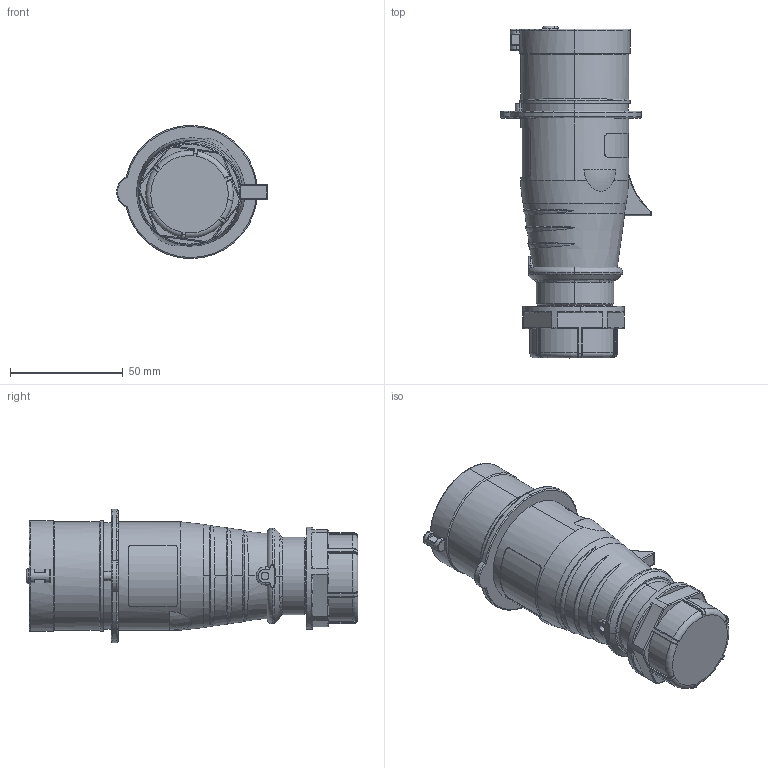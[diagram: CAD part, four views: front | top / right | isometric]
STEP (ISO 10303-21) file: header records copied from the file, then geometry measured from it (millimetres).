
FILE_DESCRIPTION (( 'STEP AP203' ), '1' );
FILE_NAME ('DIS2131636 (CP 4p 16ﾀ 400ﾂ IP44).STEP', '2024-08-06T12:42:04', ( '' ), ( '' ), 'SwSTEP 2.0', 'SolidWorks 2022', '' );
FILE_SCHEMA (( 'CONFIG_CONTROL_DESIGN' ));
Length unit declared in the file: millimetre
Products named in the file (1): DIS2131636 (CP 4p 16А 400В IP44)
Bounding box: 66.97 x 147.47 x 59.2 mm (x, y, z)
Volume: 180997.4 mm3; surface area: 36941.3 mm2
Topology: 1 solids, 12 shells, 446 faces, 1074 edges, 671 vertices
Faces by surface type: cylinder 168, plane 107, torus 100, cone 39, bspline 30, sphere 2
Entity records: 18414 total; most frequent: CARTESIAN_POINT 8655, ORIENTED_EDGE 2132, DIRECTION 1841, EDGE_CURVE 1066, AXIS2_PLACEMENT_3D 765, VERTEX_POINT 671, EDGE_LOOP 473, FACE_OUTER_BOUND 446
